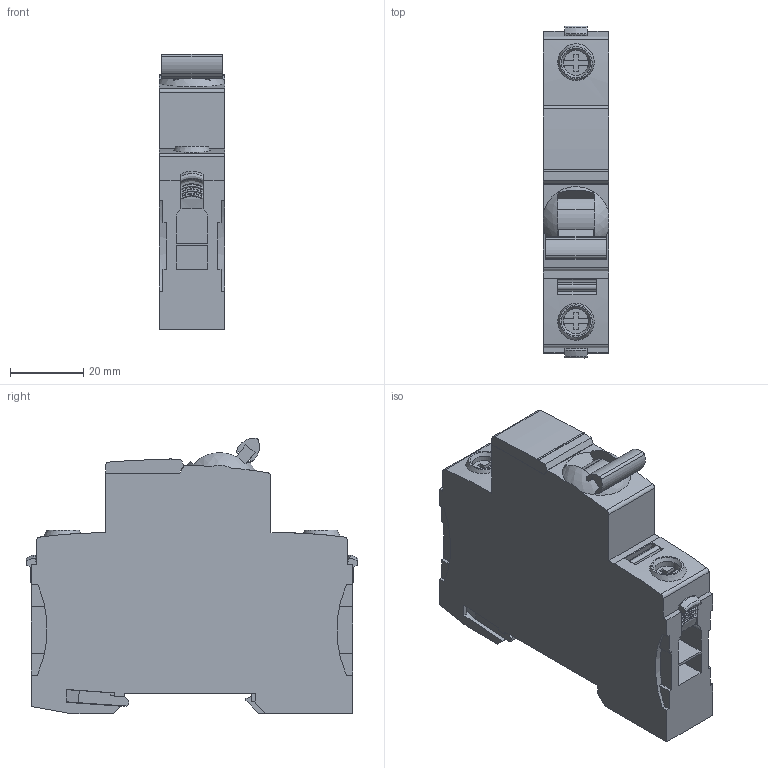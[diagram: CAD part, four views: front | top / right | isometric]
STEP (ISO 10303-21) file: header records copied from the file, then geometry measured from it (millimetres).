
FILE_DESCRIPTION(/* description */ ('STEP AP203'),/* implementation_level */ '2;1');
FILE_NAME(/* name */ 'A9F03101',/* time_stamp */ '2026-10-04T22:38:33+02:00',/* author */ ('License CC BY-ND 4.0'),/* organization */ ('CADENAS'),/* preprocessor_version */ 'ST-DEVELOPER v20',/* originating_system */ 'PARTsolutions',/* authorisation */ ' ');
FILE_SCHEMA (('CONFIG_CONTROL_DESIGN'));
Length unit declared in the file: millimetre
Products named in the file (11): A9F03101; A9F03101_PART1; A9F03101_PART2; A9F03101_PART3; A9F03101_PART4; A9F03101_PART5; A9F03101_PART6; A9F03101_PART7; A9F03101_PART8; A9F03101_PART9; A9F03101_PART10
Assembly tree (10 placements, depth 2):
  A9F03101
    A9F03101_PART1
    A9F03101_PART2
    A9F03101_PART3
    A9F03101_PART4
    A9F03101_PART5
    A9F03101_PART6
    A9F03101_PART7
    A9F03101_PART8
    A9F03101_PART9
    A9F03101_PART10
Bounding box: 17.7 x 90.4 x 75 mm (x, y, z)
Volume: 82477.8 mm3; surface area: 23669 mm2
Topology: 10 solids, 10 shells, 401 faces, 1107 edges, 737 vertices
Faces by surface type: plane 304, cylinder 62, bspline 30, cone 4, sphere 1
Full cylindrical faces by diameter (mm): 4.5 x6, 6.8 x4
Entity records: 13648 total; most frequent: CARTESIAN_POINT 3461, ORIENTED_EDGE 2164, DIRECTION 1898, EDGE_CURVE 1082, LINE 822, VECTOR 822, VERTEX_POINT 728, AXIS2_PLACEMENT_3D 538
